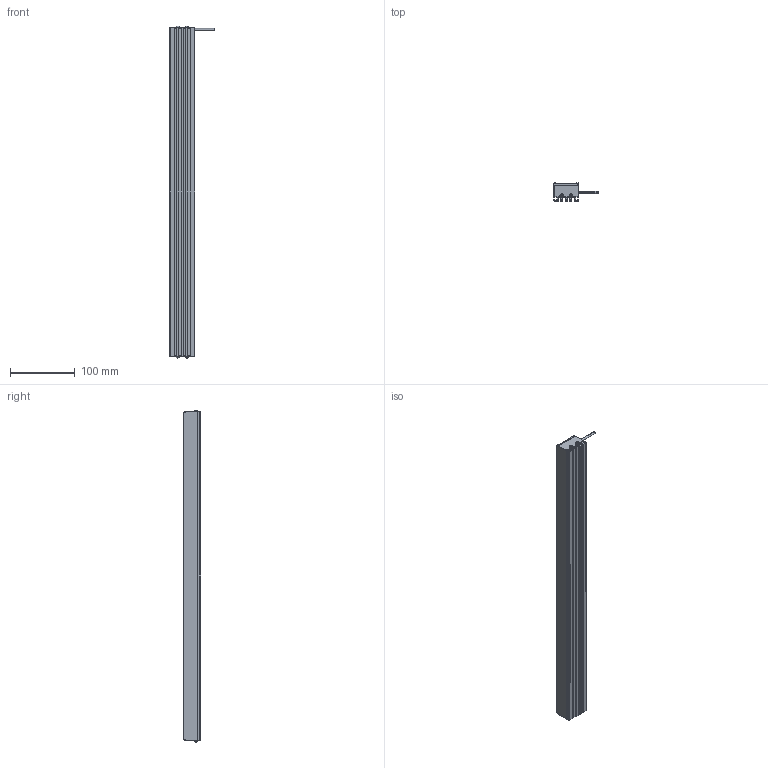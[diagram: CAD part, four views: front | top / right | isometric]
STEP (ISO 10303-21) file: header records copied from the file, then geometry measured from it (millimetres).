
FILE_DESCRIPTION((''),'2;1');
FILE_NAME('MV-LLDS-507-38_ASM','2020-12-30T',('Administrator'),(''),'PRO/ENGINEER BY PARAMETRIC TECHNOLOGY CORPORATION, 2010100','PRO/ENGINEER BY PARAMETRIC TECHNOLOGY CORPORATION, 2010100','');
FILE_SCHEMA(('CONFIG_CONTROL_DESIGN'));
Length unit declared in the file: millimetre
Products named in the file (3): BL-6_3_; M3-5_3; MV-LLDS-507-38_ASM
Assembly tree (5 placements, depth 2):
  MV-LLDS-507-38_ASM
    BL-6_3_
    M3-5_3  x4
Bounding box: 68 x 27 x 511.68 mm (x, y, z)
Volume: 424187.3 mm3; surface area: 122476.3 mm2
Topology: 5 solids, 13 shells, 349 faces, 934 edges, 604 vertices
Faces by surface type: plane 223, cylinder 78, cone 16, bspline 16, torus 8, sphere 8
Entity records: 8203 total; most frequent: CARTESIAN_POINT 1695, ORIENTED_EDGE 1338, DIRECTION 1310, EDGE_CURVE 679, VECTOR 514, LINE 514, VERTEX_POINT 445, AXIS2_PLACEMENT_3D 398
